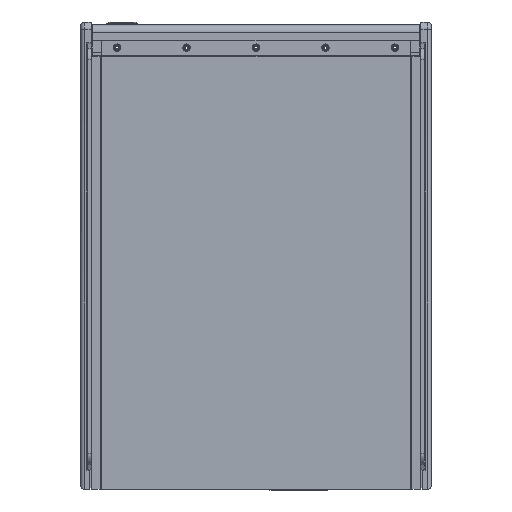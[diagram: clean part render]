
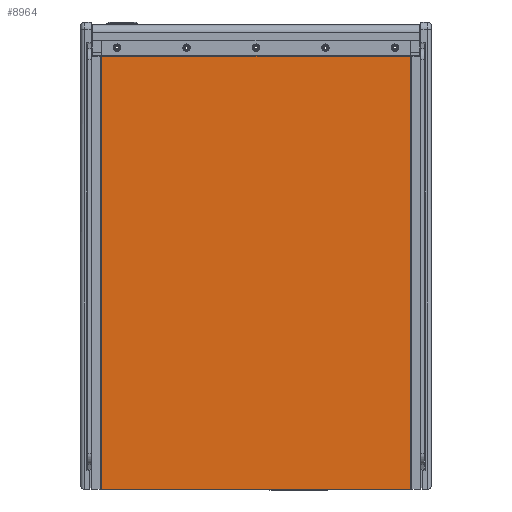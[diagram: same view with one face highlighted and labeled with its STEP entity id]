
A CAD part, front view. The second image highlights one B-rep face of the part: STEP entity #8964.
In plain terms, the highlighted planar face has unit normal (0, -1, 0) as drawn and (0, 1, 0) by its records, which use the part's own axes.
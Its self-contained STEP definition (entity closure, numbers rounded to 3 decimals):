
#2 = DIRECTION ( 'NONE',  ( 0., -1., 0. ) ) ;
#129 = CARTESIAN_POINT ( 'NONE',  ( 270.256, 0., 0. ) ) ;
#329 = DIRECTION ( 'NONE',  ( 0., 0., -1. ) ) ;
#594 = CARTESIAN_POINT ( 'NONE',  ( -261.874, 0., 734.06 ) ) ;
#935 = CARTESIAN_POINT ( 'NONE',  ( 261.874, 0., 761.746 ) ) ;
#1135 = CARTESIAN_POINT ( 'NONE',  ( 270.256, 0., 0. ) ) ;
#2262 = EDGE_LOOP ( 'NONE', ( #3055, #24526, #20837, #19474 ) ) ;
#2836 = LINE ( 'NONE', #935, #2916 ) ;
#2916 = VECTOR ( 'NONE', #8666, 1000. ) ;
#3055 = ORIENTED_EDGE ( 'NONE', *, *, #14235, .F. ) ;
#6319 = VECTOR ( 'NONE', #24292, 1000. ) ;
#6405 = VERTEX_POINT ( 'NONE', #8394 ) ;
#7441 = CARTESIAN_POINT ( 'NONE',  ( 261.874, 0., 734.06 ) ) ;
#8181 = CARTESIAN_POINT ( 'NONE',  ( -261.874, 0., 0. ) ) ;
#8394 = CARTESIAN_POINT ( 'NONE',  ( 261.874, 0., 0. ) ) ;
#8666 = DIRECTION ( 'NONE',  ( 0., 0., -1. ) ) ;
#8964 = ADVANCED_FACE ( 'Face1', ( #24337 ), #9627, .F. ) ;
#9370 = EDGE_CURVE ( 'NONE', #21740, #18165, #22995, .T. ) ;
#9627 = PLANE ( 'NONE',  #14963 ) ;
#10448 = EDGE_CURVE ( 'NONE', #6405, #19419, #20364, .T. ) ;
#14235 = EDGE_CURVE ( 'NONE', #18165, #19419, #19677, .T. ) ;
#14963 = AXIS2_PLACEMENT_3D ( 'NONE', #129, #2, #18969 ) ;
#16149 = CARTESIAN_POINT ( 'NONE',  ( -261.874, 0., 761.746 ) ) ;
#16796 = VECTOR ( 'NONE', #329, 1000. ) ;
#18165 = VERTEX_POINT ( 'NONE', #594 ) ;
#18969 = DIRECTION ( 'NONE',  ( 0., 0., -1. ) ) ;
#19419 = VERTEX_POINT ( 'NONE', #8181 ) ;
#19474 = ORIENTED_EDGE ( 'NONE', *, *, #10448, .T. ) ;
#19677 = LINE ( 'NONE', #16149, #16796 ) ;
#20364 = LINE ( 'NONE', #1135, #6319 ) ;
#20837 = ORIENTED_EDGE ( 'NONE', *, *, #23874, .T. ) ;
#20979 = DIRECTION ( 'NONE',  ( -1., 0., 0. ) ) ;
#21740 = VERTEX_POINT ( 'NONE', #7441 ) ;
#22995 = LINE ( 'NONE', #23118, #24185 ) ;
#23118 = CARTESIAN_POINT ( 'NONE',  ( 270.256, 0., 734.06 ) ) ;
#23874 = EDGE_CURVE ( 'Edge11', #21740, #6405, #2836, .T. ) ;
#24185 = VECTOR ( 'NONE', #20979, 1000. ) ;
#24292 = DIRECTION ( 'NONE',  ( -1., 0., 0. ) ) ;
#24337 = FACE_OUTER_BOUND ( 'NONE', #2262, .T. ) ;
#24526 = ORIENTED_EDGE ( 'NONE', *, *, #9370, .F. ) ;
